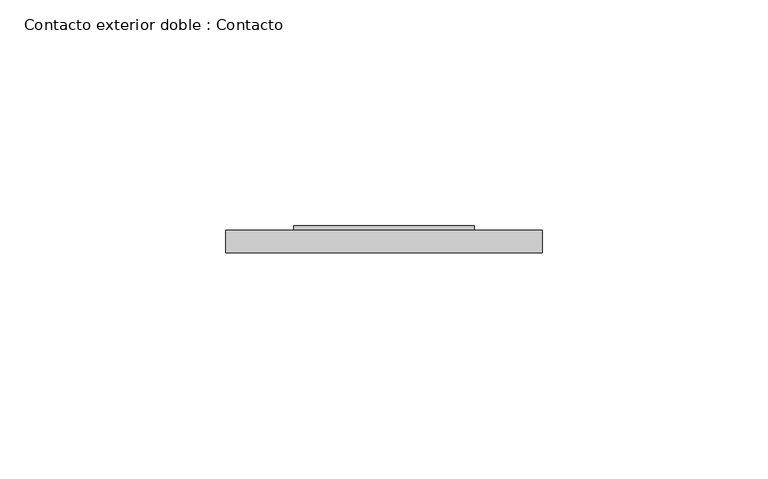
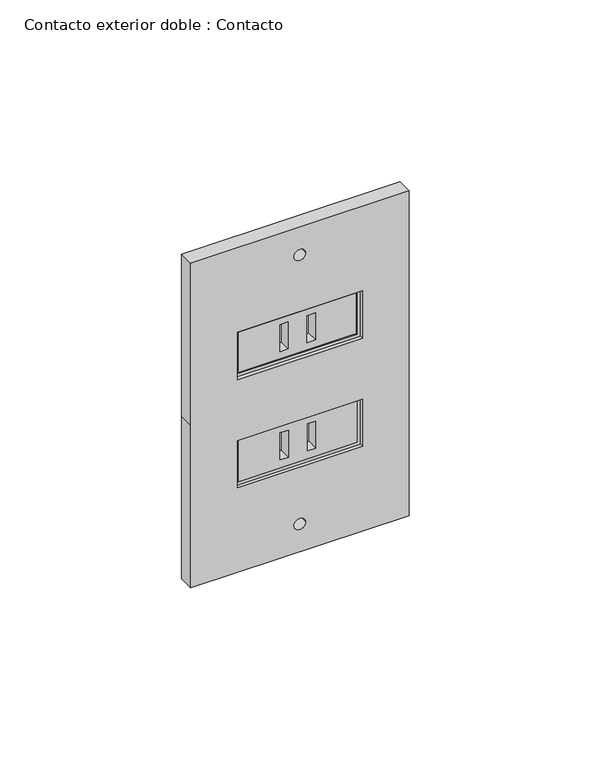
"""IFC4 building model written with IfcOpenShell, lengths in millimetres: proxy geometry, Contacto exterior doble : Contacto."""

from ifc_helpers import new_model, si_unit, point, frame, frame_2d, origin, place, context, project, spatial, polyline, circle_curve, trimmed, segment, composite_curve, outline, extrude, source, transform, mapped, element, save


def contacto_exterior_doble_contacto_3b9dc114(model_context):
    return source(origin(), model_context, "Body", "SweptSolid", [
        extrude(outline(polyline([(338.6666667, 106.0359807), (324.6666667, 106.0359807), (324.6666667, 144.0359807), (338.6666667, 144.0359807), (338.6666667, 106.0359807)]), holes=[polyline([(327.3652061, 121.9892242), (327.3652061, 119.3302678), (336.5176584, 119.3302678), (336.5176584, 121.9892242), (327.3652061, 121.9892242)]), polyline([(327.3652061, 128.0827373), (336.5176584, 128.0827373), (336.5176584, 130.7416937), (327.3652061, 130.7416937), (327.3652061, 128.0827373)])]), frame((0.0, 76.2025607, 0.0), z_axis=(0.0, 1.0, 0.0), x_axis=(0.0, 0.0, 1.0)), (0.0, 0.0, 1.0), 3.7974393),
        extrude(outline(polyline([(339.6666667, 145.0), (339.6666667, 105.0), (323.6666667, 105.0), (323.6666667, 145.0), (339.6666667, 145.0)]), holes=[polyline([(338.6666667, 144.0359807), (324.6666667, 144.0359807), (324.6666667, 105.9197769), (338.6666667, 105.9197769), (338.6666667, 144.0359807)])]), frame((0.0, 76.2025607, 0.0), z_axis=(0.0, 1.0, 0.0), x_axis=(0.0, 0.0, 1.0)), (0.0, 0.0, 1.0), 4.7658788),
        extrude(outline(polyline([(360.3333333, 145.0), (376.3333333, 145.0), (376.3333333, 105.0), (360.3333333, 105.0), (360.3333333, 145.0)]), holes=[polyline([(375.3333333, 106.0), (375.3333333, 144.0), (361.3333333, 144.0), (361.3333333, 106.0), (375.3333333, 106.0)])]), frame((0.0, 76.2025607, 0.0), z_axis=(0.0, 1.0, 0.0), x_axis=(0.0, 0.0, 1.0)), (0.0, 0.0, 1.0), 4.7658788),
        extrude(outline(polyline([(375.3333333, 106.0), (361.3333333, 106.0), (361.3333333, 144.0), (375.3333333, 144.0), (375.3333333, 106.0)]), holes=[polyline([(364.0318727, 121.9532435), (364.0318727, 119.2942871), (373.184325, 119.2942871), (373.184325, 121.9532435), (364.0318727, 121.9532435)]), polyline([(364.0318727, 128.0467565), (373.184325, 128.0467565), (373.184325, 130.7057129), (364.0318727, 130.7057129), (364.0318727, 128.0467565)])]), frame((0.0, 76.2025607, 0.0), z_axis=(0.0, 1.0, 0.0), x_axis=(0.0, 0.0, 1.0)), (0.0, 0.0, 1.0), 3.7974393),
        extrude(outline(polyline([(405.0, 160.0), (405.0, 90.0), (350.0, 90.0), (295.0, 90.0), (295.0, 160.0), (405.0, 160.0)]), holes=[composite_curve([segment(trimmed(circle_curve(frame_2d((395.5814465, 125.0)), 1.8475425), [point((395.5814465, 123.1524575))], [point((395.5814465, 126.8475425))], True, "CARTESIAN"), True, "CONTINUOUS"), segment(trimmed(circle_curve(frame_2d((395.5814465, 125.0)), 1.8475425), [point((395.5814465, 126.8475425))], [point((395.5814465, 123.1524575))], True, "CARTESIAN"), True, "CONTINUOUS")], self_intersect=False), composite_curve([segment(trimmed(circle_curve(frame_2d((304.4185535, 125.0)), 1.8475425), [point((304.4185535, 123.1524575))], [point((304.4185535, 126.8475425))], True, "CARTESIAN"), True, "CONTINUOUS"), segment(trimmed(circle_curve(frame_2d((304.4185535, 125.0)), 1.8475425), [point((304.4185535, 126.8475425))], [point((304.4185535, 123.1524575))], True, "CARTESIAN"), True, "CONTINUOUS")], self_intersect=False), polyline([(339.6666667, 105.0), (339.6666667, 145.0), (323.6666667, 145.0), (323.6666667, 105.0), (339.6666667, 105.0)]), polyline([(376.3333333, 105.0), (376.3333333, 145.0), (360.3333333, 145.0), (360.3333333, 105.0), (376.3333333, 105.0)])]), frame((0.0, 75.0, 0.0), z_axis=(0.0, 1.0, 0.0), x_axis=(0.0, 0.0, 1.0)), (0.0, 0.0, 1.0), 5.0),
    ])


if __name__ == "__main__":
    model = new_model("IFC4")
    model_context = context("Model", 3, world=origin())
    ifc_project = project(units=[si_unit("LENGTHUNIT", "METRE", prefix="MILLI")], contexts=[model_context])
    site = spatial("IfcSite", under=ifc_project)
    building = spatial("IfcBuilding", under=site)
    placement = place(None, origin())
    contacto_exterior_doble_contacto_shape = contacto_exterior_doble_contacto_3b9dc114(model_context)
    element("IfcBuildingElementProxy", 1, Name="Contacto exterior doble : Contacto", ObjectType="Contacto exterior doble : Contacto", at=placement, inside=building, context=model_context, shape_type="MappedRepresentation", body=[
        mapped(contacto_exterior_doble_contacto_shape, transform((0.0, 0.0, 0.0), x_axis=(1.0, 0.0, 0.0), y_axis=(0.0, 1.0, 0.0), z_axis=(0.0, 0.0, 1.0))),
    ])
    save(model, "model.ifc")
